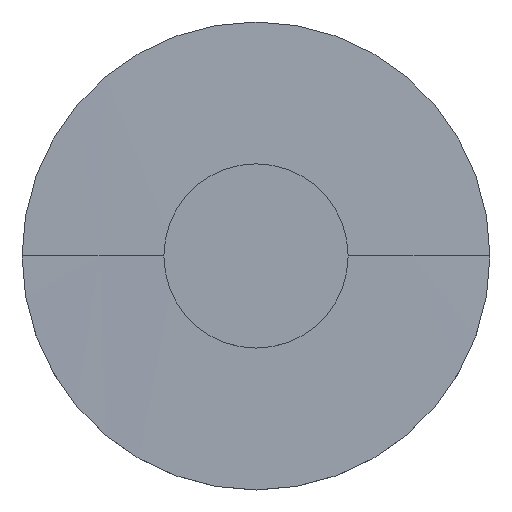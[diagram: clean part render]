
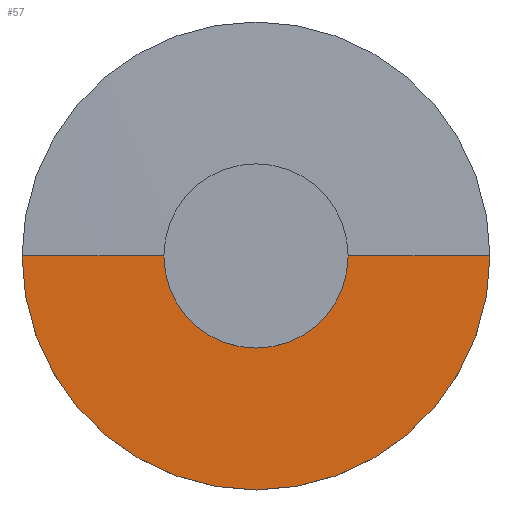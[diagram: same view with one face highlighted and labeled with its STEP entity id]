
A CAD part, top view. The second image highlights one B-rep face of the part: STEP entity #57.
In plain terms, the highlighted spherical face has radius 1412.43 mm.
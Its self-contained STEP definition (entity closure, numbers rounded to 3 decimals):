
#57=ADVANCED_FACE('',(#71),#72,.T.);
#71=FACE_OUTER_BOUND('',#91,.T.);
#72=SPHERICAL_SURFACE('',#92,1412.429);
#91=EDGE_LOOP('',(#124,#125,#126));
#92=AXIS2_PLACEMENT_3D('',#127,#128,#129);
#124=ORIENTED_EDGE('',*,*,#173,.T.);
#125=ORIENTED_EDGE('',*,*,#174,.T.);
#126=ORIENTED_EDGE('',*,*,#175,.T.);
#127=CARTESIAN_POINT('',(0.0,0.0,-1406.929));
#128=DIRECTION('',(0.0,0.0,1.0));
#129=DIRECTION('',(1.0,0.0,0.0));
#173=EDGE_CURVE('',#189,#194,#195,.T.);
#174=EDGE_CURVE('',#194,#191,#196,.T.);
#175=EDGE_CURVE('',#191,#189,#197,.T.);
#189=VERTEX_POINT('',#215);
#191=VERTEX_POINT('',#218);
#194=VERTEX_POINT('',#222);
#195=CIRCLE('',#223,1412.429);
#196=CIRCLE('',#224,1412.429);
#197=CIRCLE('',#225,25.4);
#215=CARTESIAN_POINT('',(25.4,0.,5.272));
#218=CARTESIAN_POINT('',(-25.4,0.,5.272));
#222=CARTESIAN_POINT('',(0.0,0.0,5.5));
#223=AXIS2_PLACEMENT_3D('',#253,#254,#255);
#224=AXIS2_PLACEMENT_3D('',#256,#257,#258);
#225=AXIS2_PLACEMENT_3D('',#259,#260,#261);
#253=CARTESIAN_POINT('',(0.0,0.0,-1406.929));
#254=DIRECTION('',(0.,-1.0,0.0));
#255=DIRECTION('',(0.0,0.0,1.0));
#256=CARTESIAN_POINT('',(0.0,0.0,-1406.929));
#257=DIRECTION('',(0.,-1.0,0.0));
#258=DIRECTION('',(0.0,0.0,1.0));
#259=CARTESIAN_POINT('',(0.0,0.0,5.272));
#260=DIRECTION('',(0.0,0.0,1.0));
#261=DIRECTION('',(1.0,0.0,0.0));
